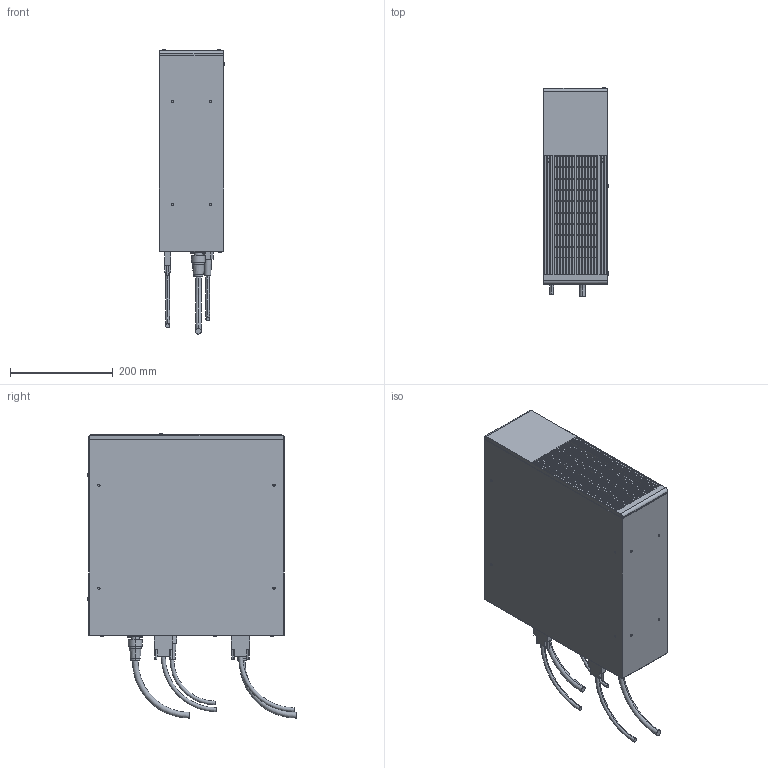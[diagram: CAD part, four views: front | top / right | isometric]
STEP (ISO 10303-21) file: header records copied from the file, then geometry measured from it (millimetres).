
FILE_DESCRIPTION (( 'STEP AP203' ), '1' );
FILE_NAME ('lp-zv200pl.STEP', '2023-05-31T09:51:12', ( '' ), ( '' ), 'SwSTEP 2.0', 'SolidWorks 2019', '' );
FILE_SCHEMA (( 'CONFIG_CONTROL_DESIGN' ));
Length unit declared in the file: millimetre
Products named in the file (1): lp-zv200pl
Bounding box: 127 x 405.5 x 552 mm (x, y, z)
Volume: 18549747.2 mm3; surface area: 572303.3 mm2
Topology: 1 solids, 1 shells, 1211 faces, 3256 edges, 1984 vertices
Faces by surface type: plane 845, cylinder 334, torus 10, sphere 8, bspline 8, cone 6
Entity records: 38111 total; most frequent: CARTESIAN_POINT 7080, ORIENTED_EDGE 6496, DIRECTION 6366, EDGE_CURVE 3248, VECTOR 2482, LINE 2482, VERTEX_POINT 1984, AXIS2_PLACEMENT_3D 1942
